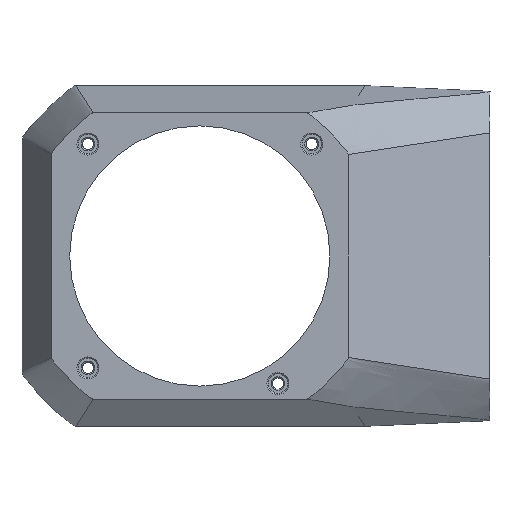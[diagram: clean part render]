
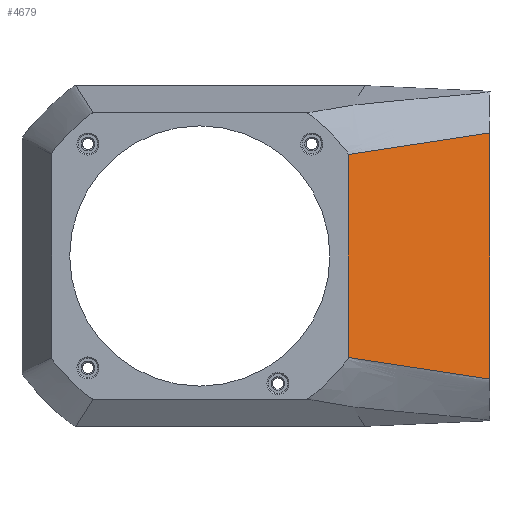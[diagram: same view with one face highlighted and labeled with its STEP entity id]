
A CAD part, left-side view. The second image highlights one B-rep face of the part: STEP entity #4679.
In plain terms, the highlighted planar face has unit normal (-0.909, -0.417, 0).
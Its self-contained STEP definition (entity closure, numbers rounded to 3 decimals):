
#696=CARTESIAN_POINT('',(-135.,289.5,39.));
#988=DIRECTION('',(0.,0.,1.));
#989=VECTOR('',#988,78.);
#990=CARTESIAN_POINT('',(-135.,289.5,-39.));
#991=LINE('',#990,#989);
#992=CARTESIAN_POINT('',(-135.,289.5,39.));
#993=CARTESIAN_POINT('',(-133.958,287.229,39.346));
#994=CARTESIAN_POINT('',(-131.875,282.688,40.039));
#995=CARTESIAN_POINT('',(-128.75,275.875,41.078));
#996=CARTESIAN_POINT('',(-125.625,269.063,42.117));
#997=CARTESIAN_POINT('',(-122.5,262.25,43.156));
#998=CARTESIAN_POINT('',(-119.375,255.438,44.195));
#999=CARTESIAN_POINT('',(-116.25,248.625,45.234));
#1000=CARTESIAN_POINT('',(-113.125,241.813,46.273));
#1001=CARTESIAN_POINT('',(-111.042,237.271,46.966));
#1002=CARTESIAN_POINT('',(-110.,235.,47.313));
#1004=CARTESIAN_POINT('',(-110.,235.,-47.313));
#1005=CARTESIAN_POINT('',(-111.042,237.271,
-46.966));
#1006=CARTESIAN_POINT('',(-113.125,241.813,
-46.273));
#1007=CARTESIAN_POINT('',(-116.25,248.625,
-45.234));
#1008=CARTESIAN_POINT('',(-119.375,255.438,
-44.195));
#1009=CARTESIAN_POINT('',(-122.5,262.25,
-43.156));
#1010=CARTESIAN_POINT('',(-125.625,269.063,
-42.117));
#1011=CARTESIAN_POINT('',(-128.75,275.875,
-41.078));
#1012=CARTESIAN_POINT('',(-131.875,282.688,
-40.039));
#1013=CARTESIAN_POINT('',(-133.958,287.229,
-39.346));
#1014=CARTESIAN_POINT('',(-135.,289.5,
-39.));
#1093=DIRECTION('',(0.,0.,1.));
#1094=VECTOR('',#1093,94.625);
#1095=CARTESIAN_POINT('',(-110.,235.,-47.313));
#1096=LINE('',#1095,#1094);
#3127=VERTEX_POINT('',#696);
#3128=CARTESIAN_POINT('',(-135.,289.5,
-39.));
#3129=VERTEX_POINT('',#3128);
#3168=VERTEX_POINT('',#1002);
#3170=CARTESIAN_POINT('',(-110.,235.,-47.313));
#3171=VERTEX_POINT('',#3170);
#4666=CARTESIAN_POINT('',(-122.5,262.25,-1146.359));
#4667=DIRECTION('',(0.909,0.417,0.));
#4668=DIRECTION('',(-0.417,0.909,0.));
#4669=AXIS2_PLACEMENT_3D('',#4666,#4667,#4668);
#4670=PLANE('',#4669);
#4671=ORIENTED_EDGE('',*,*,#3809,.T.);
#4672=ORIENTED_EDGE('',*,*,#4655,.T.);
#4674=ORIENTED_EDGE('',*,*,#4673,.F.);
#4676=ORIENTED_EDGE('',*,*,#4675,.T.);
#4677=EDGE_LOOP('',(#4671,#4672,#4674,#4676));
#4678=FACE_OUTER_BOUND('',#4677,.F.);
#4679=ADVANCED_FACE('',(#4678),#4670,.F.);
#1003=B_SPLINE_CURVE_WITH_KNOTS('',3,(#992,#993,#994,#995,#996,#997,#998,#999,
#1000,#1001,#1002),.UNSPECIFIED.,.F.,.F.,(4,1,1,1,1,1,1,1,4),(0.,
0.125,0.25,0.375,0.5,
0.625,0.75,0.875,1.),.UNSPECIFIED.);
#1015=B_SPLINE_CURVE_WITH_KNOTS('',3,(#1004,#1005,#1006,#1007,#1008,#1009,#1010,
#1011,#1012,#1013,#1014),.UNSPECIFIED.,.F.,.F.,(4,1,1,1,1,1,1,1,4),(0.,
0.125,0.25,0.375,0.5,
0.625,0.75,0.875,1.),.UNSPECIFIED.);
#3809=EDGE_CURVE('',#3129,#3127,#991,.T.);
#4655=EDGE_CURVE('',#3127,#3168,#1003,.T.);
#4673=EDGE_CURVE('',#3171,#3168,#1096,.T.);
#4675=EDGE_CURVE('',#3171,#3129,#1015,.T.);
